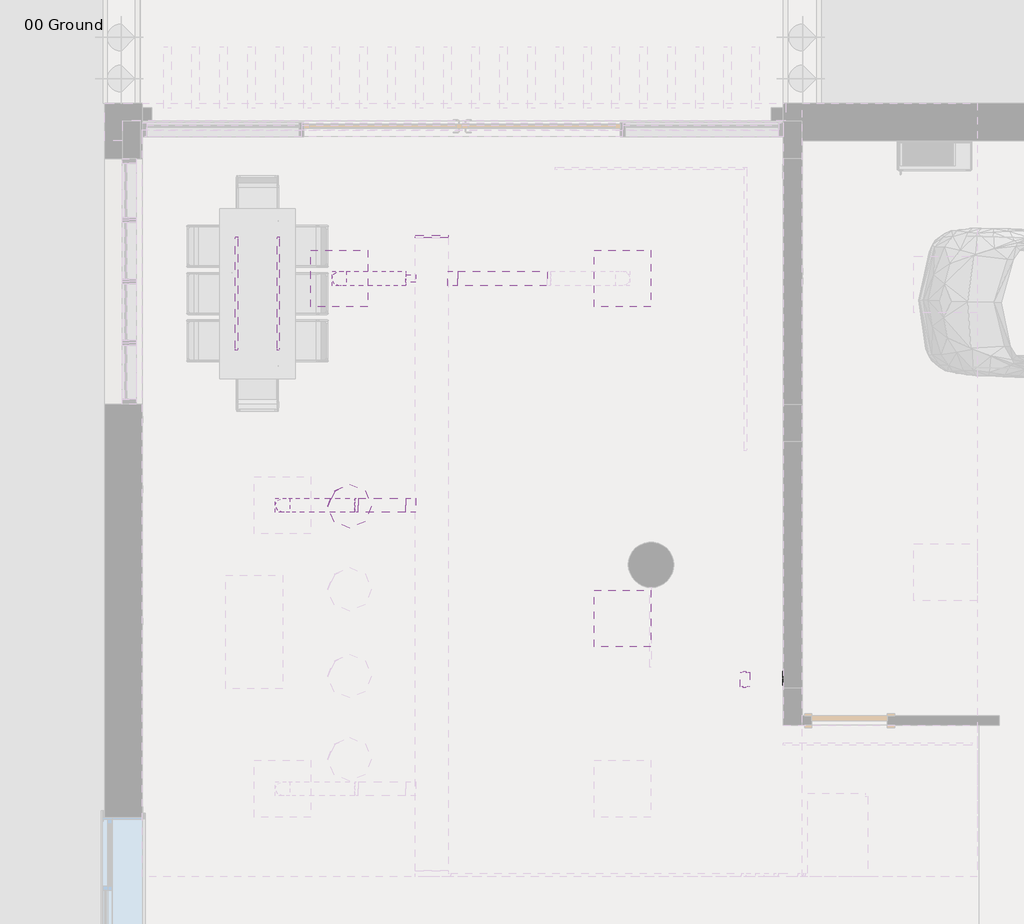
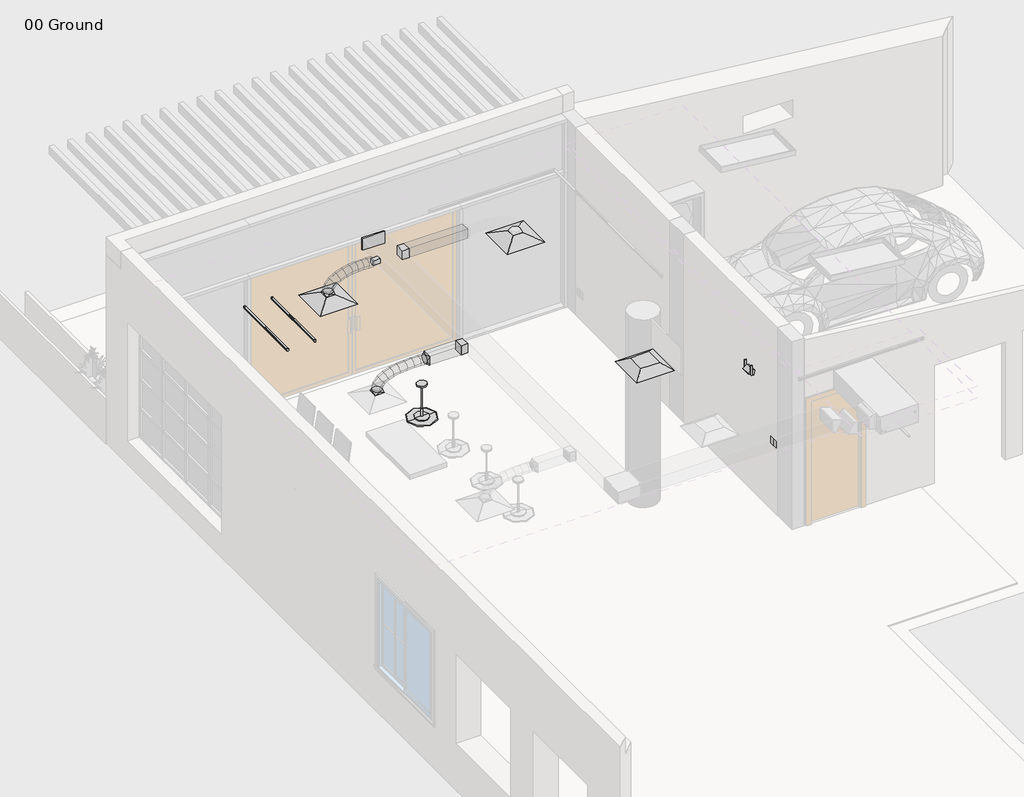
# One storey, part 6 of 7: 7 duct fittings, 4 duct segments, 4 light fixtures, 3 air terminals, 2 switching devices.
"""IFC4 building model written with IfcOpenShell, lengths in millimetres."""

from ifc_helpers import new_model, si_unit, frame, origin, place, context, project, spatial, polyline, circle_curve, ellipse_curve, outline, extrude, transform, mapped, element, save
from ifc_brep_helpers import plane_surface, cylinder_surface, advanced_brep
from components import m_return_diffuser_hosted_return_diffuser_600x600mm_735a5a32, m_supply_diffuser_hosted_supply_diffuser_600x600mm_c6a520ad, m_rectangular_endcap_standard_665b9dd8, m_rectangular_takeoff_standard_4b23f397, m_rectangular_takeoff_standard_c5702b73, m_rectangular_takeoff_standard_39a10c1c, m_rectangular_to_round_transition_angle_45_degree_4e08f822, m_downlight_spot_60_degree_tilt_277v_15926088, m_downlight_strip_1200mm_277v_72c973f1, m_pendant_light_disk_150w_277v_c7fc852b, m_receptacle_220v_standard_10251bba

model = new_model("IFC4")

# Units and contexts
model_context = context("Model", 3, world=origin())
ifc_project = project(units=[si_unit("LENGTHUNIT", "METRE", prefix="MILLI")], contexts=[model_context])

# Site, building, storey
site = spatial("IfcSite", under=ifc_project)
building = spatial("IfcBuilding", under=site)
storey = spatial("IfcBuildingStorey", under=building, Name="00 Ground", Elevation=0.0)

# Air terminals
placement = place(None, origin())
m_return_diffuser_hosted_return_diffuser_600x600mm_shape = m_return_diffuser_hosted_return_diffuser_600x600mm_735a5a32(model_context)
element("IfcAirTerminal", 1, ObjectType="M_Return Diffuser - Hosted : Return Diffuser 600x600mm", at=placement, inside=storey, context=model_context, shape_type="MappedRepresentation", body=[
    mapped(m_return_diffuser_hosted_return_diffuser_600x600mm_shape, transform((-3024.5407999, 1067.2898352, 2700.0), x_axis=(1.0, 0.0, 0.0), y_axis=(0.0, -1.0, 0.0), z_axis=(0.0, 0.0, -1.0))),
])
m_supply_diffuser_hosted_supply_diffuser_600x600mm_shape = m_supply_diffuser_hosted_supply_diffuser_600x600mm_c6a520ad(model_context)
element("IfcAirTerminal", 2, ObjectType="M_Supply Diffuser - Hosted : Supply Diffuser 600x600mm", at=placement, inside=storey, context=model_context, shape_type="MappedRepresentation", body=[
    mapped(m_supply_diffuser_hosted_supply_diffuser_600x600mm_shape, transform((-6024.5407999, 4667.2898352, 2700.0), x_axis=(1.0, 0.0, 0.0), y_axis=(0.0, -1.0, 0.0), z_axis=(0.0, 0.0, -1.0))),
])
element("IfcAirTerminal", 3, ObjectType="M_Supply Diffuser - Hosted : Supply Diffuser 600x600mm", at=placement, inside=storey, context=model_context, shape_type="MappedRepresentation", body=[
    mapped(m_supply_diffuser_hosted_supply_diffuser_600x600mm_shape, transform((-3024.5407999, 4667.2898352, 2700.0), x_axis=(1.0, 0.0, 0.0), y_axis=(0.0, -1.0, 0.0), z_axis=(0.0, 0.0, -1.0))),
])

# Duct fittings
m_rectangular_endcap_standard_shape = m_rectangular_endcap_standard_665b9dd8(model_context)
element("IfcDuctFitting", 4, ObjectType="M_Rectangular Endcap : Standard", at=placement, inside=storey, context=model_context, shape_type="MappedRepresentation", body=[
    mapped(m_rectangular_endcap_standard_shape, transform((-5044.5407999, 5097.7898352, 3090.0), x_axis=(0.0, 1.0, 0.0), y_axis=(-1.0, 0.0, 0.0), z_axis=(0.0, 0.0, 1.0))),
])
m_rectangular_takeoff_standard_shape = m_rectangular_takeoff_standard_4b23f397(model_context)
element("IfcDuctFitting", 5, ObjectType="M_Rectangular Takeoff : Standard", at=placement, inside=storey, context=model_context, shape_type="MappedRepresentation", body=[
    mapped(m_rectangular_takeoff_standard_shape, transform((-5219.5407999, 2267.2898352, 3090.0), x_axis=(-1.0, 0.0, 0.0), y_axis=(0.0, 1.0, 0.0), z_axis=(0.0, 0.0, -1.0))),
])
m_rectangular_takeoff_standard_2_shape = m_rectangular_takeoff_standard_c5702b73(model_context)
element("IfcDuctFitting", 6, ObjectType="M_Rectangular Takeoff : Standard", at=placement, inside=storey, context=model_context, shape_type="MappedRepresentation", body=[
    mapped(m_rectangular_takeoff_standard_2_shape, transform((-4869.5407999, 4667.2898352, 3090.0), x_axis=(1.0, 0.0, 0.0), y_axis=(0.0, -1.0, 0.0), z_axis=(0.0, 0.0, -1.0))),
])
m_rectangular_takeoff_standard_3_shape = m_rectangular_takeoff_standard_39a10c1c(model_context)
element("IfcDuctFitting", 7, ObjectType="M_Rectangular Takeoff : Standard", at=placement, inside=storey, context=model_context, shape_type="MappedRepresentation", body=[
    mapped(m_rectangular_takeoff_standard_3_shape, transform((-5219.5407999, 4667.2898352, 3090.0), x_axis=(-1.0, 0.0, 0.0), y_axis=(0.0, 1.0, 0.0), z_axis=(0.0, 0.0, -1.0))),
])
m_rectangular_to_round_transition_angle_45_degree_shape = m_rectangular_to_round_transition_angle_45_degree_4e08f822(model_context)
element("IfcDuctFitting", 8, ObjectType="M_Rectangular to Round Transition - Angle : 45 Degree", at=placement, inside=storey, context=model_context, shape_type="MappedRepresentation", body=[
    mapped(m_rectangular_to_round_transition_angle_45_degree_shape, transform((-6024.5407999, 4667.2898352, 2801.8523776), x_axis=(0.0, 0.0, 1.0), y_axis=(-1.0, 0.0, 0.0), z_axis=(0.0, -1.0, 0.0))),
])
element("IfcDuctFitting", 9, ObjectType="M_Rectangular to Round Transition - Angle : 45 Degree", at=placement, inside=storey, context=model_context, shape_type="MappedRepresentation", body=[
    mapped(m_rectangular_to_round_transition_angle_45_degree_shape, transform((-6624.5407999, 2267.2898352, 2801.8523776), x_axis=(0.0, 0.0, 1.0), y_axis=(-1.0, 0.0, 0.0), z_axis=(0.0, -1.0, 0.0))),
])
element("IfcDuctFitting", 10, ObjectType="M_Rectangular to Round Transition - Angle : 45 Degree", at=placement, inside=storey, context=model_context, shape_type="MappedRepresentation", body=[
    mapped(m_rectangular_to_round_transition_angle_45_degree_shape, transform((-5824.8204567, 2267.2898352, 3090.0), x_axis=(-1.0, 0.0, 0.0), y_axis=(0.0, -1.0, 0.0), z_axis=(0.0, 0.0, 1.0))),
])

# Duct segments
element("IfcDuctSegment", 11, ObjectType="Flex - Round", at=placement, inside=storey, context=model_context, shape_type="AdvancedBrep", body=[
    advanced_brep(
    [(-5949.5407999, 4667.2898352, 2839.3523776), (-6024.5407999, 4592.2898352, 2839.3523776), (-6099.5407999, 4667.2898352, 2839.3523776), (-6024.5407999, 4742.2898352, 2839.3523776), (-5949.5407999, 4667.2898352, 2845.7825205), (-6024.5407999, 4592.2898352, 2858.7152721), (-6099.5407999, 4667.2898352, 2871.6480237), (-6024.5407999, 4742.2898352, 2858.7152721), (-5937.9543883, 4667.2898352, 2878.3796917), (-6003.6908774, 4592.2898352, 2917.3743735), (-6069.4273665, 4667.2898352, 2956.3690554), (-6003.6908774, 4742.2898352, 2917.3743735), (-5899.6489618, 4667.2898352, 2921.2442404), (-5947.8637007, 4592.2898352, 2979.846116), (-5996.0784395, 4667.2898352, 3038.4479915), (-5947.8637007, 4742.2898352, 2979.846116), (-5835.0596375, 4667.2898352, 2959.5594297), (-5867.143156, 4592.2898352, 3027.7305455), (-5899.2266745, 4667.2898352, 3095.9016612), (-5867.143156, 4742.2898352, 3027.7305455), (-5750.9662796, 4667.2898352, 2989.7179396), (-5771.6131298, 4592.2898352, 3061.9906026), (-5792.2599799, 4667.2898352, 3134.2632655), (-5771.6131298, 4742.2898352, 3061.9906026), (-5659.5163262, 4667.2898352, 3009.419511), (-5671.3575082, 4592.2898352, 3083.5892279), (-5683.1986902, 4667.2898352, 3157.7589448), (-5671.3575082, 4742.2898352, 3083.5892279), (-5571.7216929, 4667.2898352, 3018.6218392), (-5576.1672725, 4592.2898352, 3093.5667375), (-5580.6128521, 4667.2898352, 3168.5116357), (-5576.1672725, 4742.2898352, 3093.5667375), (-5489.6308797, 4667.2898352, 3019.7762697), (-5488.9041984, 4592.2898352, 3094.7939047), (-5488.1775171, 4667.2898352, 3169.8115397), (-5488.9041984, 4742.2898352, 3094.7939047), (-5407.5361151, 4667.2898352, 3017.030414), (-5405.3922588, 4592.2898352, 3092.0006482), (-5403.2484024, 4667.2898352, 3166.9708823), (-5405.3922588, 4742.2898352, 3092.0006482), (-5322.9212596, 4667.2898352, 3015.0211366), (-5321.1407999, 4742.2898352, 3090.0), (-5319.3603402, 4667.2898352, 3164.9788634), (-5321.1407999, 4592.2898352, 3090.0)],
    [
        (0, 1, circle_curve(frame((-6024.5407999, 4667.2898352, 2839.3523776), z_axis=(0.0, 0.0, -1.0), x_axis=(1.0, 0.0, 0.0)), 75.0)),
        (1, 2, circle_curve(frame((-6024.5407999, 4667.2898352, 2839.3523776), z_axis=(0.0, 0.0, -1.0), x_axis=(1.0, 0.0, 0.0)), 75.0)),
        (2, 3, circle_curve(frame((-6024.5407999, 4667.2898352, 2839.3523776), z_axis=(0.0, 0.0, -1.0), x_axis=(1.0, 0.0, 0.0)), 75.0)),
        (3, 0, circle_curve(frame((-6024.5407999, 4667.2898352, 2839.3523776), z_axis=(0.0, 0.0, -1.0), x_axis=(1.0, 0.0, 0.0)), 75.0)),
        (0, 4),
        (4, 5, ellipse_curve(frame((-6024.5407999, 4667.2898352, 2858.7152721), z_axis=(-0.16992882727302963, 0.0, -0.9854563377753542), x_axis=(0.9854563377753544, 0.0, -0.16992882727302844)), 76.1068726, 75.0)),
        (5, 1),
        (5, 6, ellipse_curve(frame((-6024.5407999, 4667.2898352, 2858.7152721), z_axis=(-0.16992882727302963, 0.0, -0.9854563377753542), x_axis=(0.9854563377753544, 0.0, -0.16992882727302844)), 76.1068726, 75.0)),
        (6, 2),
        (6, 7, ellipse_curve(frame((-6024.5407999, 4667.2898352, 2858.7152721), z_axis=(-0.16992882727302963, 0.0, -0.9854563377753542), x_axis=(0.9854563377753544, 0.0, -0.16992882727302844)), 76.1068726, 75.0)),
        (7, 3),
        (7, 4, ellipse_curve(frame((-6024.5407999, 4667.2898352, 2858.7152721), z_axis=(-0.16992882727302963, 0.0, -0.9854563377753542), x_axis=(0.9854563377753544, 0.0, -0.16992882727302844)), 76.1068726, 75.0)),
        (4, 8),
        (8, 9, ellipse_curve(frame((-6003.6908774, 4667.2898352, 2917.3743735), z_axis=(-0.5101870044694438, 0.0, -0.8600634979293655), x_axis=(0.8600634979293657, 0.0, -0.5101870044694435)), 76.4321347, 75.0)),
        (9, 5),
        (9, 10, ellipse_curve(frame((-6003.6908774, 4667.2898352, 2917.3743735), z_axis=(-0.5101870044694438, 0.0, -0.8600634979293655), x_axis=(0.8600634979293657, 0.0, -0.5101870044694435)), 76.4321347, 75.0)),
        (10, 6),
        (10, 11, ellipse_curve(frame((-6003.6908774, 4667.2898352, 2917.3743735), z_axis=(-0.5101870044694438, 0.0, -0.8600634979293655), x_axis=(0.8600634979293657, 0.0, -0.5101870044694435)), 76.4321347, 75.0)),
        (11, 7),
        (11, 8, ellipse_curve(frame((-6003.6908774, 4667.2898352, 2917.3743735), z_axis=(-0.5101870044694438, 0.0, -0.8600634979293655), x_axis=(0.8600634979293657, 0.0, -0.5101870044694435)), 76.4321347, 75.0)),
        (8, 12),
        (12, 13, ellipse_curve(frame((-5947.8637007, 4667.2898352, 2979.846116), z_axis=(-0.7722252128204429, 0.0, -0.6353488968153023), x_axis=(0.6353488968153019, 0.0, -0.7722252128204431)), 75.8870269, 75.0)),
        (13, 9),
        (13, 14, ellipse_curve(frame((-5947.8637007, 4667.2898352, 2979.846116), z_axis=(-0.7722252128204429, 0.0, -0.6353488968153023), x_axis=(0.6353488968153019, 0.0, -0.7722252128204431)), 75.8870269, 75.0)),
        (14, 10),
        (14, 15, ellipse_curve(frame((-5947.8637007, 4667.2898352, 2979.846116), z_axis=(-0.7722252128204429, 0.0, -0.6353488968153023), x_axis=(0.6353488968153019, 0.0, -0.7722252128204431)), 75.8870269, 75.0)),
        (15, 11),
        (15, 12, ellipse_curve(frame((-5947.8637007, 4667.2898352, 2979.846116), z_axis=(-0.7722252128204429, 0.0, -0.6353488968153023), x_axis=(0.6353488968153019, 0.0, -0.7722252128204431)), 75.8870269, 75.0)),
        (12, 16),
        (16, 17, ellipse_curve(frame((-5867.143156, 4667.2898352, 3027.7305455), z_axis=(-0.9048033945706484, 0.0, -0.42582956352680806), x_axis=(0.42582956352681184, 0.0, -0.9048033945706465)), 75.3435676, 75.0)),
        (17, 13),
        (17, 18, ellipse_curve(frame((-5867.143156, 4667.2898352, 3027.7305455), z_axis=(-0.9048033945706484, 0.0, -0.42582956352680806), x_axis=(0.42582956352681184, 0.0, -0.9048033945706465)), 75.3435676, 75.0)),
        (18, 14),
        (18, 19, ellipse_curve(frame((-5867.143156, 4667.2898352, 3027.7305455), z_axis=(-0.9048033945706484, 0.0, -0.42582956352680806), x_axis=(0.42582956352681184, 0.0, -0.9048033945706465)), 75.3435676, 75.0)),
        (19, 15),
        (19, 16, ellipse_curve(frame((-5867.143156, 4667.2898352, 3027.7305455), z_axis=(-0.9048033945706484, 0.0, -0.42582956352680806), x_axis=(0.42582956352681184, 0.0, -0.9048033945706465)), 75.3435676, 75.0)),
        (16, 20),
        (20, 21, ellipse_curve(frame((-5771.6131298, 4667.2898352, 3061.9906026), z_axis=(-0.9615326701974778, 0.0, -0.27469059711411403), x_axis=(0.2746905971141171, 0.0, -0.9615326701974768)), 75.1640222, 75.0)),
        (21, 17),
        (21, 22, ellipse_curve(frame((-5771.6131298, 4667.2898352, 3061.9906026), z_axis=(-0.9615326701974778, 0.0, -0.27469059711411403), x_axis=(0.2746905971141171, 0.0, -0.9615326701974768)), 75.1640222, 75.0)),
        (22, 18),
        (22, 23, ellipse_curve(frame((-5771.6131298, 4667.2898352, 3061.9906026), z_axis=(-0.9615326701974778, 0.0, -0.27469059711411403), x_axis=(0.2746905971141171, 0.0, -0.9615326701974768)), 75.1640222, 75.0)),
        (23, 19),
        (23, 20, ellipse_curve(frame((-5771.6131298, 4667.2898352, 3061.9906026), z_axis=(-0.9615326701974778, 0.0, -0.27469059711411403), x_axis=(0.2746905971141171, 0.0, -0.9615326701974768)), 75.1640222, 75.0)),
        (20, 24),
        (24, 25, ellipse_curve(frame((-5671.3575082, 4667.2898352, 3083.5892279), z_axis=(-0.9874945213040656, 0.0, -0.1576533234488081), x_axis=(0.15765332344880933, 0.0, -0.9874945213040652)), 75.1089908, 75.0)),
        (25, 21),
        (25, 26, ellipse_curve(frame((-5671.3575082, 4667.2898352, 3083.5892279), z_axis=(-0.9874945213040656, 0.0, -0.1576533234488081), x_axis=(0.15765332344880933, 0.0, -0.9874945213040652)), 75.1089908, 75.0)),
        (26, 22),
        (26, 27, ellipse_curve(frame((-5671.3575082, 4667.2898352, 3083.5892279), z_axis=(-0.9874945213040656, 0.0, -0.1576533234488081), x_axis=(0.15765332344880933, 0.0, -0.9874945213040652)), 75.1089908, 75.0)),
        (27, 23),
        (27, 24, ellipse_curve(frame((-5671.3575082, 4667.2898352, 3083.5892279), z_axis=(-0.9874945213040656, 0.0, -0.1576533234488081), x_axis=(0.15765332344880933, 0.0, -0.9874945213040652)), 75.1089908, 75.0)),
        (24, 28),
        (28, 29, ellipse_curve(frame((-5576.1672725, 4667.2898352, 3093.5667375), z_axis=(-0.9982453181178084, 0.0, -0.059213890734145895), x_axis=(0.059213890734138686, 0.0, -0.9982453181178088)), 75.0766339, 75.0)),
        (29, 25),
        (29, 30, ellipse_curve(frame((-5576.1672725, 4667.2898352, 3093.5667375), z_axis=(-0.9982453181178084, 0.0, -0.059213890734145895), x_axis=(0.059213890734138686, 0.0, -0.9982453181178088)), 75.0766339, 75.0)),
        (30, 26),
        (30, 31, ellipse_curve(frame((-5576.1672725, 4667.2898352, 3093.5667375), z_axis=(-0.9982453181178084, 0.0, -0.059213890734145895), x_axis=(0.059213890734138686, 0.0, -0.9982453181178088)), 75.0766339, 75.0)),
        (31, 27),
        (31, 28, ellipse_curve(frame((-5576.1672725, 4667.2898352, 3093.5667375), z_axis=(-0.9982453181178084, 0.0, -0.059213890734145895), x_axis=(0.059213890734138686, 0.0, -0.9982453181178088)), 75.0766339, 75.0)),
        (28, 32),
        (32, 33, ellipse_curve(frame((-5488.9041984, 4667.2898352, 3094.7939047), z_axis=(-0.9999530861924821, 0.0, 0.009686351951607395), x_axis=(-0.009686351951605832, 0.0, -0.9999530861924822)), 75.0211545, 75.0)),
        (33, 29),
        (33, 34, ellipse_curve(frame((-5488.9041984, 4667.2898352, 3094.7939047), z_axis=(-0.9999530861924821, 0.0, 0.009686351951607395), x_axis=(-0.009686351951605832, 0.0, -0.9999530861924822)), 75.0211545, 75.0)),
        (34, 30),
        (34, 35, ellipse_curve(frame((-5488.9041984, 4667.2898352, 3094.7939047), z_axis=(-0.9999530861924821, 0.0, 0.009686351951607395), x_axis=(-0.009686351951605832, 0.0, -0.9999530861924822)), 75.0211545, 75.0)),
        (35, 31),
        (35, 32, ellipse_curve(frame((-5488.9041984, 4667.2898352, 3094.7939047), z_axis=(-0.9999530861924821, 0.0, 0.009686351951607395), x_axis=(-0.009686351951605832, 0.0, -0.9999530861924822)), 75.0211545, 75.0)),
        (32, 36),
        (36, 37, ellipse_curve(frame((-5405.3922588, 4667.2898352, 3092.0006482), z_axis=(-0.9995913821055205, 0.0, 0.028584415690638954), x_axis=(0.02858441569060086, 0.0, 0.9995913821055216)), 75.0008809, 75.0)),
        (37, 33),
        (37, 38, ellipse_curve(frame((-5405.3922588, 4667.2898352, 3092.0006482), z_axis=(-0.9995913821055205, 0.0, 0.028584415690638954), x_axis=(0.02858441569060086, 0.0, 0.9995913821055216)), 75.0008809, 75.0)),
        (38, 34),
        (38, 39, ellipse_curve(frame((-5405.3922588, 4667.2898352, 3092.0006482), z_axis=(-0.9995913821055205, 0.0, 0.028584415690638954), x_axis=(0.02858441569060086, 0.0, 0.9995913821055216)), 75.0008809, 75.0)),
        (39, 35),
        (39, 36, ellipse_curve(frame((-5405.3922588, 4667.2898352, 3092.0006482), z_axis=(-0.9995913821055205, 0.0, 0.028584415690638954), x_axis=(0.02858441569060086, 0.0, 0.9995913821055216)), 75.0008809, 75.0)),
        (40, 41, circle_curve(frame((-5321.1407999, 4667.2898352, 3090.0), z_axis=(0.9997181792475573, 0.0, -0.023739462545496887), x_axis=(-0.023739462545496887, 0.0, -0.9997181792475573)), 75.0)),
        (41, 42, circle_curve(frame((-5321.1407999, 4667.2898352, 3090.0), z_axis=(0.9997181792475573, 0.0, -0.023739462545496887), x_axis=(-0.023739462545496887, 0.0, -0.9997181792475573)), 75.0)),
        (42, 43, circle_curve(frame((-5321.1407999, 4667.2898352, 3090.0), z_axis=(0.9997181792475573, 0.0, -0.023739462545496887), x_axis=(-0.023739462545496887, 0.0, -0.9997181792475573)), 75.0)),
        (43, 40, circle_curve(frame((-5321.1407999, 4667.2898352, 3090.0), z_axis=(0.9997181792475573, 0.0, -0.023739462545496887), x_axis=(-0.023739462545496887, 0.0, -0.9997181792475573)), 75.0)),
        (36, 40),
        (43, 37),
        (42, 38),
        (41, 39),
    ],
    [
        plane_surface(frame((-6024.5407999, 4592.2898352, 2839.3523776), z_axis=(0.0, 0.0, -1.0), x_axis=(1.0, 0.0, 0.0))),
        cylinder_surface(frame((-6024.5407999, 4667.2898352, 2839.3523776), z_axis=(0.0, 0.0, -1.0), x_axis=(1.0, 0.0, 0.0)), 75.0),
        cylinder_surface(frame((-6024.5407999, 4667.2898352, 2858.7152721), z_axis=(-0.33491487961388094, 0.0, -0.9422483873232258), x_axis=(0.9422483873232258, 0.0, -0.33491487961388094)), 75.0),
        cylinder_surface(frame((-6003.6908774, 4667.2898352, 2917.3743735), z_axis=(-0.6663400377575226, 0.0, -0.7456480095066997), x_axis=(0.7456480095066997, 0.0, -0.6663400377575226)), 75.0),
        cylinder_surface(frame((-5947.8637007, 4667.2898352, 2979.846116), z_axis=(-0.8600576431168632, 0.0, -0.5101968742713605), x_axis=(0.5101968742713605, 0.0, -0.8600576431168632)), 75.0),
        cylinder_surface(frame((-5867.143156, 4667.2898352, 3027.7305455), z_axis=(-0.9412973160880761, 0.0, -0.33757867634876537), x_axis=(0.33757867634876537, 0.0, -0.9412973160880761)), 75.0),
        cylinder_surface(frame((-5771.6131298, 4667.2898352, 3061.9906026), z_axis=(-0.9775715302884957, 0.0, -0.210603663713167), x_axis=(0.210603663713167, 0.0, -0.9775715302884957)), 75.0),
        cylinder_surface(frame((-5671.3575082, 4667.2898352, 3083.5892279), z_axis=(-0.9945516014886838, 0.0, -0.10424544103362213), x_axis=(0.10424544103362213, 0.0, -0.9945516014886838)), 75.0),
        cylinder_surface(frame((-5576.1672725, 4667.2898352, 3093.5667375), z_axis=(-0.9999011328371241, 0.0, -0.014061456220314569), x_axis=(0.014061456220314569, 0.0, -0.9999011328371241)), 75.0),
        cylinder_surface(frame((-5488.9041984, 4667.2898352, 3094.7939047), z_axis=(-0.9994411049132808, 0.0, 0.03342869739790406), x_axis=(-0.03342869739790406, 0.0, -0.9994411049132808)), 75.0),
        plane_surface(frame((-5321.1407999, 4742.2898352, 3090.0), z_axis=(0.9997181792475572, 0.0, -0.02373946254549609), x_axis=(0.02373946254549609, 0.0, 0.9997181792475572))),
        cylinder_surface(frame((-5405.3922588, 4667.2898352, 3092.0006482), z_axis=(-0.9997181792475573, 0.0, 0.023739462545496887), x_axis=(-0.023739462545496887, 0.0, -0.9997181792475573)), 75.0),
    ],
    [
        (0, [[1, 2, 3, 4]]),
        (1, [[-1, 5, 6, 7]]),
        (1, [[-2, -7, 8, 9]]),
        (1, [[-3, -9, 10, 11]]),
        (1, [[-4, -11, 12, -5]]),
        (2, [[-6, 13, 14, 15]]),
        (2, [[-8, -15, 16, 17]]),
        (2, [[-10, -17, 18, 19]]),
        (2, [[-12, -19, 20, -13]]),
        (3, [[-14, 21, 22, 23]]),
        (3, [[-16, -23, 24, 25]]),
        (3, [[-18, -25, 26, 27]]),
        (3, [[-20, -27, 28, -21]]),
        (4, [[-22, 29, 30, 31]]),
        (4, [[-24, -31, 32, 33]]),
        (4, [[-26, -33, 34, 35]]),
        (4, [[-28, -35, 36, -29]]),
        (5, [[-30, 37, 38, 39]]),
        (5, [[-32, -39, 40, 41]]),
        (5, [[-34, -41, 42, 43]]),
        (5, [[-36, -43, 44, -37]]),
        (6, [[-38, 45, 46, 47]]),
        (6, [[-40, -47, 48, 49]]),
        (6, [[-42, -49, 50, 51]]),
        (6, [[-44, -51, 52, -45]]),
        (7, [[-46, 53, 54, 55]]),
        (7, [[-48, -55, 56, 57]]),
        (7, [[-50, -57, 58, 59]]),
        (7, [[-52, -59, 60, -53]]),
        (8, [[-54, 61, 62, 63]]),
        (8, [[-56, -63, 64, 65]]),
        (8, [[-58, -65, 66, 67]]),
        (8, [[-60, -67, 68, -61]]),
        (9, [[-62, 69, 70, 71]]),
        (9, [[-64, -71, 72, 73]]),
        (9, [[-66, -73, 74, 75]]),
        (9, [[-68, -75, 76, -69]]),
        (10, [[77, 78, 79, 80]]),
        (11, [[-70, 81, -80, 82]]),
        (11, [[-72, -82, -79, 83]]),
        (11, [[-74, -83, -78, 84]]),
        (11, [[-76, -84, -77, -81]]),
    ],
),
])
element("IfcDuctSegment", 12, ObjectType="Flex - Round", at=placement, inside=storey, context=model_context, shape_type="AdvancedBrep", body=[
    advanced_brep(
    [(-6549.5407999, 2267.2898352, 2839.3523776), (-6624.5407999, 2192.2898352, 2839.3523776), (-6699.5407999, 2267.2898352, 2839.3523776), (-6624.5407999, 2342.2898352, 2839.3523776), (-6549.5407999, 2267.2898352, 2845.2848901), (-6624.5407999, 2192.2898352, 2855.419138), (-6699.5407999, 2267.2898352, 2865.5533859), (-6624.5407999, 2342.2898352, 2855.419138), (-6538.9605787, 2267.2898352, 2883.7203187), (-6607.2067583, 2192.2898352, 2918.3895908), (-6675.4529379, 2267.2898352, 2953.0588628), (-6607.2067583, 2342.2898352, 2918.3895908), (-6508.7482866, 2267.2898352, 2921.7423363), (-6559.1665904, 2192.2898352, 2978.8479003), (-6609.5848941, 2267.2898352, 3035.9534644), (-6559.1665904, 2342.2898352, 2978.8479003), (-6454.5294779, 2267.2898352, 2954.7766158), (-6486.3632316, 2192.2898352, 3023.205321), (-6518.1969853, 2267.2898352, 3091.6340262), (-6486.3632316, 2342.2898352, 3023.205321), (-6375.8137951, 2267.2898352, 2981.1812805), (-6394.7396175, 2192.2898352, 3053.9398674), (-6413.6654398, 2267.2898352, 3126.6984544), (-6394.7396175, 2342.2898352, 3053.9398674), (-6279.6508054, 2267.2898352, 2999.207941), (-6290.2386834, 2192.2898352, 3073.5295543), (-6300.8265614, 2267.2898352, 3147.8511676), (-6290.2386834, 2342.2898352, 3073.5295543), (-6173.5634766, 2267.2898352, 3009.6065753), (-6178.8033648, 2192.2898352, 3084.4523963), (-6184.043253, 2267.2898352, 3159.2982173), (-6178.8033648, 2342.2898352, 3084.4523963), (-6064.4414556, 2267.2898352, 3014.2014325), (-6066.3765972, 2192.2898352, 3089.1864082), (-6068.3117388, 2267.2898352, 3164.1713838), (-6066.3765972, 2342.2898352, 3089.1864082), (-5958.6256959, 2267.2898352, 3015.2088297), (-5958.901316, 2192.2898352, 3090.2096045), (-5959.1769362, 2267.2898352, 3165.2103793), (-5958.901316, 2342.2898352, 3090.2096045), (-5862.483225, 2267.2898352, 3015.0001766), (-5862.3204567, 2342.2898352, 3090.0), (-5862.1576884, 2267.2898352, 3164.9998234), (-5862.3204567, 2192.2898352, 3090.0)],
    [
        (0, 1, circle_curve(frame((-6624.5407999, 2267.2898352, 2839.3523776), z_axis=(0.0, 0.0, -1.0), x_axis=(1.0, 0.0, 0.0)), 75.0)),
        (1, 2, circle_curve(frame((-6624.5407999, 2267.2898352, 2839.3523776), z_axis=(0.0, 0.0, -1.0), x_axis=(1.0, 0.0, 0.0)), 75.0)),
        (2, 3, circle_curve(frame((-6624.5407999, 2267.2898352, 2839.3523776), z_axis=(0.0, 0.0, -1.0), x_axis=(1.0, 0.0, 0.0)), 75.0)),
        (3, 0, circle_curve(frame((-6624.5407999, 2267.2898352, 2839.3523776), z_axis=(0.0, 0.0, -1.0), x_axis=(1.0, 0.0, 0.0)), 75.0)),
        (0, 4),
        (4, 5, ellipse_curve(frame((-6624.5407999, 2267.2898352, 2855.419138), z_axis=(-0.133906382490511, 0.0, -0.9909939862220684), x_axis=(0.9909939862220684, 0.0, -0.13390638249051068)), 75.6815894, 75.0)),
        (5, 1),
        (5, 6, ellipse_curve(frame((-6624.5407999, 2267.2898352, 2855.419138), z_axis=(-0.133906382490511, 0.0, -0.9909939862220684), x_axis=(0.9909939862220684, 0.0, -0.13390638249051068)), 75.6815894, 75.0)),
        (6, 2),
        (6, 7, ellipse_curve(frame((-6624.5407999, 2267.2898352, 2855.419138), z_axis=(-0.133906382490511, 0.0, -0.9909939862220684), x_axis=(0.9909939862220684, 0.0, -0.13390638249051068)), 75.6815894, 75.0)),
        (7, 3),
        (7, 4, ellipse_curve(frame((-6624.5407999, 2267.2898352, 2855.419138), z_axis=(-0.133906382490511, 0.0, -0.9909939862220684), x_axis=(0.9909939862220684, 0.0, -0.13390638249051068)), 75.6815894, 75.0)),
        (4, 8),
        (8, 9, ellipse_curve(frame((-6607.2067583, 2267.2898352, 2918.3895908), z_axis=(-0.4529126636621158, 0.0, -0.8915548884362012), x_axis=(0.8915548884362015, 0.0, -0.45291266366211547)), 76.5473674, 75.0)),
        (9, 5),
        (9, 10, ellipse_curve(frame((-6607.2067583, 2267.2898352, 2918.3895908), z_axis=(-0.4529126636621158, 0.0, -0.8915548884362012), x_axis=(0.8915548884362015, 0.0, -0.45291266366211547)), 76.5473674, 75.0)),
        (10, 6),
        (10, 11, ellipse_curve(frame((-6607.2067583, 2267.2898352, 2918.3895908), z_axis=(-0.4529126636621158, 0.0, -0.8915548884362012), x_axis=(0.8915548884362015, 0.0, -0.45291266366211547)), 76.5473674, 75.0)),
        (11, 7),
        (11, 8, ellipse_curve(frame((-6607.2067583, 2267.2898352, 2918.3895908), z_axis=(-0.4529126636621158, 0.0, -0.8915548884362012), x_axis=(0.8915548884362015, 0.0, -0.45291266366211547)), 76.5473674, 75.0)),
        (8, 12),
        (12, 13, ellipse_curve(frame((-6559.1665904, 2267.2898352, 2978.8479003), z_axis=(-0.7496356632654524, 0.0, -0.66185071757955), x_axis=(0.6618507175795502, 0.0, -0.7496356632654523)), 76.1777579, 75.0)),
        (13, 9),
        (13, 14, ellipse_curve(frame((-6559.1665904, 2267.2898352, 2978.8479003), z_axis=(-0.7496356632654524, 0.0, -0.66185071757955), x_axis=(0.6618507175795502, 0.0, -0.7496356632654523)), 76.1777579, 75.0)),
        (14, 10),
        (14, 15, ellipse_curve(frame((-6559.1665904, 2267.2898352, 2978.8479003), z_axis=(-0.7496356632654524, 0.0, -0.66185071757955), x_axis=(0.6618507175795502, 0.0, -0.7496356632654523)), 76.1777579, 75.0)),
        (15, 11),
        (15, 12, ellipse_curve(frame((-6559.1665904, 2267.2898352, 2978.8479003), z_axis=(-0.7496356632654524, 0.0, -0.66185071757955), x_axis=(0.6618507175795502, 0.0, -0.7496356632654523)), 76.1777579, 75.0)),
        (12, 16),
        (16, 17, ellipse_curve(frame((-6486.3632316, 2267.2898352, 3023.205321), z_axis=(-0.9066884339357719, 0.0, -0.42180100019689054), x_axis=(0.4218010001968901, 0.0, -0.9066884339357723)), 75.4710247, 75.0)),
        (17, 13),
        (17, 18, ellipse_curve(frame((-6486.3632316, 2267.2898352, 3023.205321), z_axis=(-0.9066884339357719, 0.0, -0.42180100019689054), x_axis=(0.4218010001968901, 0.0, -0.9066884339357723)), 75.4710247, 75.0)),
        (18, 14),
        (18, 19, ellipse_curve(frame((-6486.3632316, 2267.2898352, 3023.205321), z_axis=(-0.9066884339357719, 0.0, -0.42180100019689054), x_axis=(0.4218010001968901, 0.0, -0.9066884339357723)), 75.4710247, 75.0)),
        (19, 15),
        (19, 16, ellipse_curve(frame((-6486.3632316, 2267.2898352, 3023.205321), z_axis=(-0.9066884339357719, 0.0, -0.42180100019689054), x_axis=(0.4218010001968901, 0.0, -0.9066884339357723)), 75.4710247, 75.0)),
        (16, 20),
        (20, 21, ellipse_curve(frame((-6394.7396175, 2267.2898352, 3053.9398674), z_axis=(-0.9677946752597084, 0.0, -0.25174087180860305), x_axis=(0.2517408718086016, 0.0, -0.9677946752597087)), 75.179776, 75.0)),
        (21, 17),
        (21, 22, ellipse_curve(frame((-6394.7396175, 2267.2898352, 3053.9398674), z_axis=(-0.9677946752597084, 0.0, -0.25174087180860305), x_axis=(0.2517408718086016, 0.0, -0.9677946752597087)), 75.179776, 75.0)),
        (22, 18),
        (22, 23, ellipse_curve(frame((-6394.7396175, 2267.2898352, 3053.9398674), z_axis=(-0.9677946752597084, 0.0, -0.25174087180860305), x_axis=(0.2517408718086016, 0.0, -0.9677946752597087)), 75.179776, 75.0)),
        (23, 19),
        (23, 20, ellipse_curve(frame((-6394.7396175, 2267.2898352, 3053.9398674), z_axis=(-0.9677946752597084, 0.0, -0.25174087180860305), x_axis=(0.2517408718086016, 0.0, -0.9677946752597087)), 75.179776, 75.0)),
        (20, 24),
        (24, 25, ellipse_curve(frame((-6290.2386834, 2267.2898352, 3073.5295543), z_axis=(-0.9900044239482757, 0.0, -0.1410363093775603), x_axis=(0.1410363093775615, 0.0, -0.9900044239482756)), 75.0720012, 75.0)),
        (25, 21),
        (25, 26, ellipse_curve(frame((-6290.2386834, 2267.2898352, 3073.5295543), z_axis=(-0.9900044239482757, 0.0, -0.1410363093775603), x_axis=(0.1410363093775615, 0.0, -0.9900044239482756)), 75.0720012, 75.0)),
        (26, 22),
        (26, 27, ellipse_curve(frame((-6290.2386834, 2267.2898352, 3073.5295543), z_axis=(-0.9900044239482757, 0.0, -0.1410363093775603), x_axis=(0.1410363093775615, 0.0, -0.9900044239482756)), 75.0720012, 75.0)),
        (27, 23),
        (27, 24, ellipse_curve(frame((-6290.2386834, 2267.2898352, 3073.5295543), z_axis=(-0.9900044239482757, 0.0, -0.1410363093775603), x_axis=(0.1410363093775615, 0.0, -0.9900044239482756)), 75.0720012, 75.0)),
        (24, 28),
        (28, 29, ellipse_curve(frame((-6178.8033648, 2267.2898352, 3084.4523963), z_axis=(-0.9975583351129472, 0.0, -0.06983815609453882), x_axis=(0.06983815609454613, 0.0, -0.9975583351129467)), 75.0290167, 75.0)),
        (29, 25),
        (29, 30, ellipse_curve(frame((-6178.8033648, 2267.2898352, 3084.4523963), z_axis=(-0.9975583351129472, 0.0, -0.06983815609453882), x_axis=(0.06983815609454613, 0.0, -0.9975583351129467)), 75.0290167, 75.0)),
        (30, 26),
        (30, 31, ellipse_curve(frame((-6178.8033648, 2267.2898352, 3084.4523963), z_axis=(-0.9975583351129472, 0.0, -0.06983815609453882), x_axis=(0.06983815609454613, 0.0, -0.9975583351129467)), 75.0290167, 75.0)),
        (31, 27),
        (31, 28, ellipse_curve(frame((-6178.8033648, 2267.2898352, 3084.4523963), z_axis=(-0.9975583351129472, 0.0, -0.06983815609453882), x_axis=(0.06983815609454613, 0.0, -0.9975583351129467)), 75.0290167, 75.0)),
        (28, 32),
        (32, 33, ellipse_curve(frame((-6066.3765972, 2267.2898352, 3089.1864082), z_axis=(-0.9996671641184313, 0.0, -0.025798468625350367), x_axis=(0.02579846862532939, 0.0, -0.999667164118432)), 75.0099417, 75.0)),
        (33, 29),
        (33, 34, ellipse_curve(frame((-6066.3765972, 2267.2898352, 3089.1864082), z_axis=(-0.9996671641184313, 0.0, -0.025798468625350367), x_axis=(0.02579846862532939, 0.0, -0.999667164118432)), 75.0099417, 75.0)),
        (34, 30),
        (34, 35, ellipse_curve(frame((-6066.3765972, 2267.2898352, 3089.1864082), z_axis=(-0.9996671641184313, 0.0, -0.025798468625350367), x_axis=(0.02579846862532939, 0.0, -0.999667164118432)), 75.0099417, 75.0)),
        (35, 31),
        (35, 32, ellipse_curve(frame((-6066.3765972, 2267.2898352, 3089.1864082), z_axis=(-0.9996671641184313, 0.0, -0.025798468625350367), x_axis=(0.02579846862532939, 0.0, -0.999667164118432)), 75.0099417, 75.0)),
        (32, 36),
        (36, 37, ellipse_curve(frame((-5958.901316, 2267.2898352, 3090.2096045), z_axis=(-0.999993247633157, 0.0, -0.0036748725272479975), x_axis=(0.0036748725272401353, 0.0, -0.999993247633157)), 75.0012812, 75.0)),
        (37, 33),
        (37, 38, ellipse_curve(frame((-5958.901316, 2267.2898352, 3090.2096045), z_axis=(-0.999993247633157, 0.0, -0.0036748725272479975), x_axis=(0.0036748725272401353, 0.0, -0.999993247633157)), 75.0012812, 75.0)),
        (38, 34),
        (38, 39, ellipse_curve(frame((-5958.901316, 2267.2898352, 3090.2096045), z_axis=(-0.999993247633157, 0.0, -0.0036748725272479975), x_axis=(0.0036748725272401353, 0.0, -0.999993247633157)), 75.0012812, 75.0)),
        (39, 35),
        (39, 36, ellipse_curve(frame((-5958.901316, 2267.2898352, 3090.2096045), z_axis=(-0.999993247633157, 0.0, -0.0036748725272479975), x_axis=(0.0036748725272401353, 0.0, -0.999993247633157)), 75.0012812, 75.0)),
        (40, 41, circle_curve(frame((-5862.3204567, 2267.2898352, 3090.0), z_axis=(0.9999976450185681, 0.0, -0.002170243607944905), x_axis=(-0.002170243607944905, 0.0, -0.9999976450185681)), 75.0)),
        (41, 42, circle_curve(frame((-5862.3204567, 2267.2898352, 3090.0), z_axis=(0.9999976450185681, 0.0, -0.002170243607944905), x_axis=(-0.002170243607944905, 0.0, -0.9999976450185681)), 75.0)),
        (42, 43, circle_curve(frame((-5862.3204567, 2267.2898352, 3090.0), z_axis=(0.9999976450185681, 0.0, -0.002170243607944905), x_axis=(-0.002170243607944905, 0.0, -0.9999976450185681)), 75.0)),
        (43, 40, circle_curve(frame((-5862.3204567, 2267.2898352, 3090.0), z_axis=(0.9999976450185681, 0.0, -0.002170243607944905), x_axis=(-0.002170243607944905, 0.0, -0.9999976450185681)), 75.0)),
        (36, 40),
        (43, 37),
        (42, 38),
        (41, 39),
    ],
    [
        plane_surface(frame((-6624.5407999, 2192.2898352, 2839.3523776), z_axis=(0.0, 0.0, -1.0), x_axis=(1.0, 0.0, 0.0))),
        cylinder_surface(frame((-6624.5407999, 2267.2898352, 2839.3523776), z_axis=(0.0, 0.0, -1.0), x_axis=(1.0, 0.0, 0.0)), 75.0),
        cylinder_surface(frame((-6624.5407999, 2267.2898352, 2855.419138), z_axis=(-0.26540083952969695, 0.0, -0.96413816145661), x_axis=(0.96413816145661, 0.0, -0.26540083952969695)), 75.0),
        cylinder_surface(frame((-6607.2067583, 2267.2898352, 2918.3895908), z_axis=(-0.6221136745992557, 0.0, -0.7829269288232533), x_axis=(0.7829269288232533, 0.0, -0.6221136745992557)), 75.0),
        cylinder_surface(frame((-6559.1665904, 2267.2898352, 2978.8479003), z_axis=(-0.8539779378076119, 0.0, -0.5203092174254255), x_axis=(0.5203092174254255, 0.0, -0.8539779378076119)), 75.0),
        cylinder_surface(frame((-6486.3632316, 2267.2898352, 3023.205321), z_axis=(-0.9480814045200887, 0.0, -0.31802775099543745), x_axis=(0.31802775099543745, 0.0, -0.9480814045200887)), 75.0),
        cylinder_surface(frame((-6394.7396175, 2267.2898352, 3053.9398674), z_axis=(-0.9828794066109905, 0.0, -0.18425002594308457), x_axis=(0.18425002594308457, 0.0, -0.9828794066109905)), 75.0),
        cylinder_surface(frame((-6290.2386834, 2267.2898352, 3073.5295543), z_axis=(-0.9952304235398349, 0.0, -0.09755205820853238), x_axis=(0.09755205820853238, 0.0, -0.9952304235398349)), 75.0),
        cylinder_surface(frame((-6178.8033648, 2267.2898352, 3084.4523963), z_axis=(-0.9991146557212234, 0.0, -0.0420702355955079), x_axis=(0.0420702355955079, 0.0, -0.9991146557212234)), 75.0),
        cylinder_surface(frame((-6066.3765972, 2267.2898352, 3089.1864082), z_axis=(-0.9999546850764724, 0.0, -0.009519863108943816), x_axis=(0.009519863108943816, 0.0, -0.9999546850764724)), 75.0),
        plane_surface(frame((-5862.3204567, 2342.2898352, 3090.0), z_axis=(0.9999976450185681, 0.0, -0.0021702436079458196), x_axis=(0.0021702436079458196, 0.0, 0.9999976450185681))),
        cylinder_surface(frame((-5958.901316, 2267.2898352, 3090.2096045), z_axis=(-0.9999976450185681, 0.0, 0.002170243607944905), x_axis=(-0.002170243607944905, 0.0, -0.9999976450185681)), 75.0),
    ],
    [
        (0, [[1, 2, 3, 4]]),
        (1, [[-1, 5, 6, 7]]),
        (1, [[-2, -7, 8, 9]]),
        (1, [[-3, -9, 10, 11]]),
        (1, [[-4, -11, 12, -5]]),
        (2, [[-6, 13, 14, 15]]),
        (2, [[-8, -15, 16, 17]]),
        (2, [[-10, -17, 18, 19]]),
        (2, [[-12, -19, 20, -13]]),
        (3, [[-14, 21, 22, 23]]),
        (3, [[-16, -23, 24, 25]]),
        (3, [[-18, -25, 26, 27]]),
        (3, [[-20, -27, 28, -21]]),
        (4, [[-22, 29, 30, 31]]),
        (4, [[-24, -31, 32, 33]]),
        (4, [[-26, -33, 34, 35]]),
        (4, [[-28, -35, 36, -29]]),
        (5, [[-30, 37, 38, 39]]),
        (5, [[-32, -39, 40, 41]]),
        (5, [[-34, -41, 42, 43]]),
        (5, [[-36, -43, 44, -37]]),
        (6, [[-38, 45, 46, 47]]),
        (6, [[-40, -47, 48, 49]]),
        (6, [[-42, -49, 50, 51]]),
        (6, [[-44, -51, 52, -45]]),
        (7, [[-46, 53, 54, 55]]),
        (7, [[-48, -55, 56, 57]]),
        (7, [[-50, -57, 58, 59]]),
        (7, [[-52, -59, 60, -53]]),
        (8, [[-54, 61, 62, 63]]),
        (8, [[-56, -63, 64, 65]]),
        (8, [[-58, -65, 66, 67]]),
        (8, [[-60, -67, 68, -61]]),
        (9, [[-62, 69, 70, 71]]),
        (9, [[-64, -71, 72, 73]]),
        (9, [[-66, -73, 74, 75]]),
        (9, [[-68, -75, 76, -69]]),
        (10, [[77, 78, 79, 80]]),
        (11, [[-70, 81, -80, 82]]),
        (11, [[-72, -82, -79, 83]]),
        (11, [[-74, -83, -78, 84]]),
        (11, [[-76, -84, -77, -81]]),
    ],
),
])
element("IfcDuctSegment", 13, ObjectType="Radius Elbows / Taps", at=placement, inside=storey, context=model_context, shape_type="SweptSolid", body=[
    extrude(outline(polyline([(-4767.9407999, 4592.2898352), (-4767.9407999, 4742.2898352), (-3824.2611432, 4742.2898352), (-3824.2611432, 4592.2898352), (-4767.9407999, 4592.2898352)])), frame((0.0, 0.0, 3015.0), z_axis=(0.0, 0.0, 1.0), x_axis=(1.0, 0.0, 0.0)), (0.0, 0.0, 1.0), 150.0),
])
element("IfcDuctSegment", 14, ObjectType="Radius Elbows / Taps", at=placement, inside=storey, context=model_context, shape_type="SweptSolid", body=[
    extrude(outline(polyline([(-5321.1407999, 2342.2898352), (-5321.1407999, 2192.2898352), (-5824.8204567, 2192.2898352), (-5824.8204567, 2342.2898352), (-5321.1407999, 2342.2898352)])), frame((0.0, 0.0, 3015.0), z_axis=(0.0, 0.0, 1.0), x_axis=(1.0, 0.0, 0.0)), (0.0, 0.0, 1.0), 150.0),
])

# Light fixtures
m_downlight_spot_60_degree_tilt_277v_shape = m_downlight_spot_60_degree_tilt_277v_15926088(model_context)
element("IfcLightFixture", 15, ObjectType="M_Downlight - Spot : 60 Degree Tilt - 277V", at=placement, inside=storey, context=model_context, shape_type="MappedRepresentation", body=[
    mapped(m_downlight_spot_60_degree_tilt_277v_shape, transform((-1735.5407999, 422.2898352, 261.6), x_axis=(1.0, 0.0, 0.0), y_axis=(0.0, 1.0, 0.0), z_axis=(0.0, 0.0, 1.0))),
])
m_downlight_strip_1200mm_277v_shape = m_downlight_strip_1200mm_277v_72c973f1(model_context)
element("IfcLightFixture", 16, ObjectType="M_Downlight - Strip : 1200mm - 277V", at=placement, inside=storey, context=model_context, shape_type="MappedRepresentation", body=[
    mapped(m_downlight_strip_1200mm_277v_shape, transform((-6888.1843764, 4508.7898352, 1350.0), x_axis=(0.0, 1.0, 0.0), y_axis=(-1.0, 0.0, 0.0), z_axis=(0.0, 0.0, 1.0))),
])
element("IfcLightFixture", 17, ObjectType="M_Downlight - Strip : 1200mm - 277V", at=placement, inside=storey, context=model_context, shape_type="MappedRepresentation", body=[
    mapped(m_downlight_strip_1200mm_277v_shape, transform((-7328.1843764, 4508.7898352, 1350.0), x_axis=(0.0, 1.0, 0.0), y_axis=(-1.0, 0.0, 0.0), z_axis=(0.0, 0.0, 1.0))),
])
m_pendant_light_disk_150w_277v_shape = m_pendant_light_disk_150w_277v_c7fc852b(model_context)
element("IfcLightFixture", 18, ObjectType="M_Pendant Light - Disk : 150W - 277V", at=placement, inside=storey, context=model_context, shape_type="MappedRepresentation", body=[
    mapped(m_pendant_light_disk_150w_277v_shape, transform((-5914.0319685, 2258.1234412, 2700.0), x_axis=(1.0, 0.0, 0.0), y_axis=(0.0, -1.0, 0.0), z_axis=(0.0, 0.0, -1.0))),
])

# Switching devices
m_receptacle_220v_standard_shape = m_receptacle_220v_standard_10251bba(model_context)
element("IfcSwitchingDevice", 19, ObjectType="M_Lighting Switches : Single Pole", at=placement, inside=storey, context=model_context, shape_type="MappedRepresentation", body=[
    mapped(m_receptacle_220v_standard_shape, transform((-1322.5407999, 397.2898352, 1200.0), x_axis=(0.0, -1.0, 0.0), y_axis=(0.0, 0.0, 1.0), z_axis=(-1.0, 0.0, 0.0))),
])
element("IfcSwitchingDevice", 20, ObjectType="M_Lighting Switches : Single Pole", at=placement, inside=storey, context=model_context, shape_type="MappedRepresentation", body=[
    mapped(m_receptacle_220v_standard_shape, transform((-1322.5407999, 477.2898352, 1200.0), x_axis=(0.0, -1.0, 0.0), y_axis=(0.0, 0.0, 1.0), z_axis=(-1.0, 0.0, 0.0))),
])

save(model, "model.ifc")
